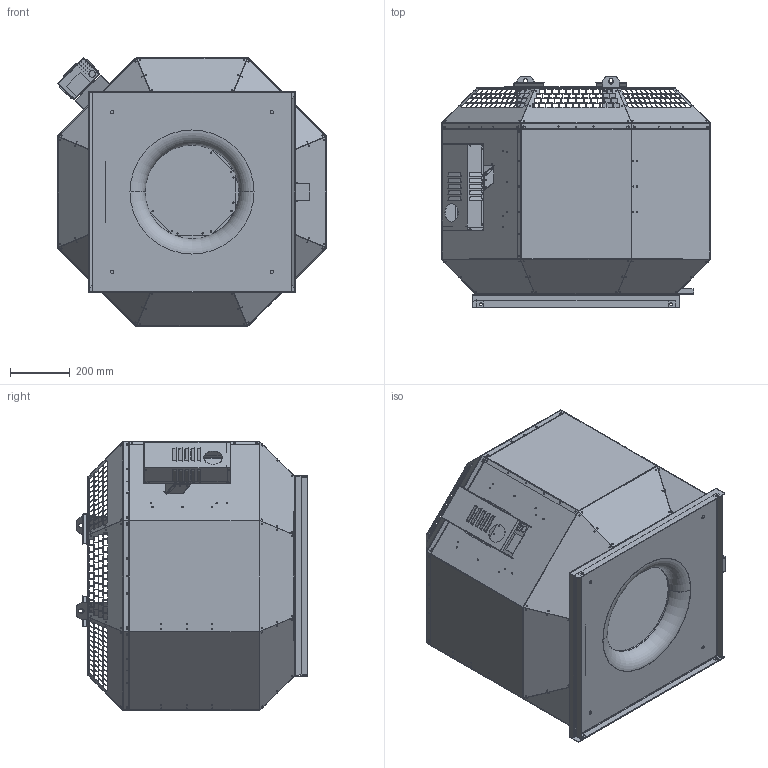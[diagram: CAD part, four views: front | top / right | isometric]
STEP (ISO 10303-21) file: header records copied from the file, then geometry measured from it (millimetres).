
FILE_DESCRIPTION (( 'STEP AP203' ), '1' );
FILE_NAME ('142189-00_DVN500D4F430_step.step', '2018-07-27T12:38:00', ( '' ), ( '' ), 'SwSTEP 2.0', 'SolidWorks 2017', '' );
FILE_SCHEMA (( 'CONFIG_CONTROL_DESIGN' ));
Products named in the file (1): 142189-00_DVN500D4F430_step
Bounding box: 902 x 776.32 x 902 mm (x, y, z)
Surface area: 6582453.1 mm2 (no closed solid volume)
Topology: 0 solids, 46 shells, 1625 faces, 10992 edges, 8609 vertices
Faces by surface type: plane 1173, cylinder 390, bspline 58, torus 4
Entity records: 119680 total; most frequent: CARTESIAN_POINT 35786, DIRECTION 15700, ORIENTED_EDGE 14263, EDGE_CURVE 10992, LINE 8734, VECTOR 8734, VERTEX_POINT 8609, EDGE_LOOP 3877
